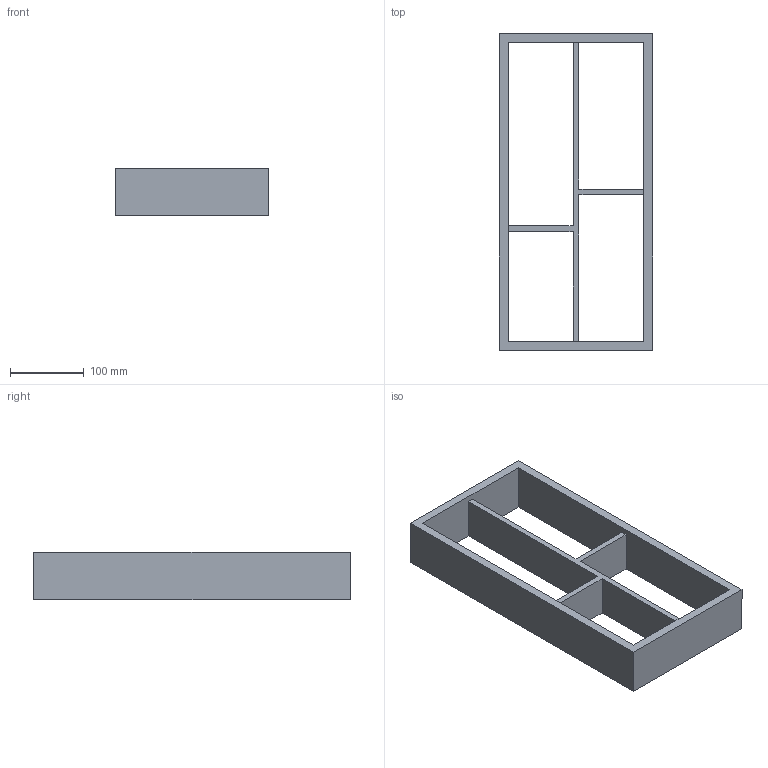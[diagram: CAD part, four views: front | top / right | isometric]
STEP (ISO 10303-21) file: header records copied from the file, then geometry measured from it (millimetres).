
FILE_DESCRIPTION (( 'STEP AP214' ), '1' );
FILE_NAME ('Vario Multi NL450_B300_16 mm_Buche.step', '2010-10-07T06:24:10', ( 'grass' ), ( '' ), 'SwSTEP 2.0', 'SolidWorks 2010', '' );
FILE_SCHEMA (( 'AUTOMOTIVE_DESIGN' ));
Length unit declared in the file: millimetre
Products named in the file (1): Vario Multi NL450_B300_16 mm_Buche
Bounding box: 208 x 429 x 65 mm (x, y, z)
Volume: 1221216 mm3; surface area: 261598 mm2
Topology: 1 solids, 1 shells, 19 faces, 60 edges, 40 vertices
Faces by surface type: plane 19
Entity records: 704 total; most frequent: ORIENTED_EDGE 120, CARTESIAN_POINT 120, DIRECTION 100, EDGE_CURVE 60, VECTOR 60, LINE 60, VERTEX_POINT 40, EDGE_LOOP 24
